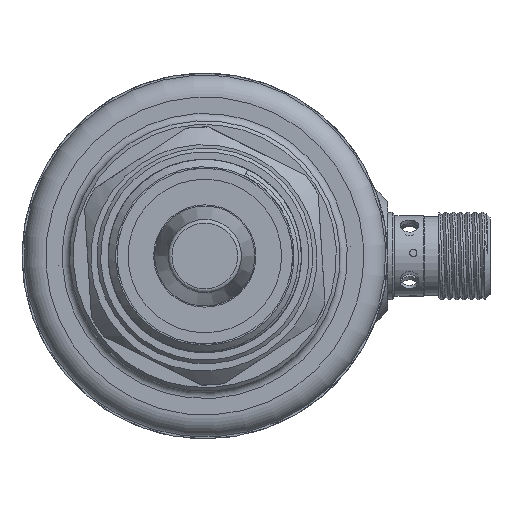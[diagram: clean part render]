
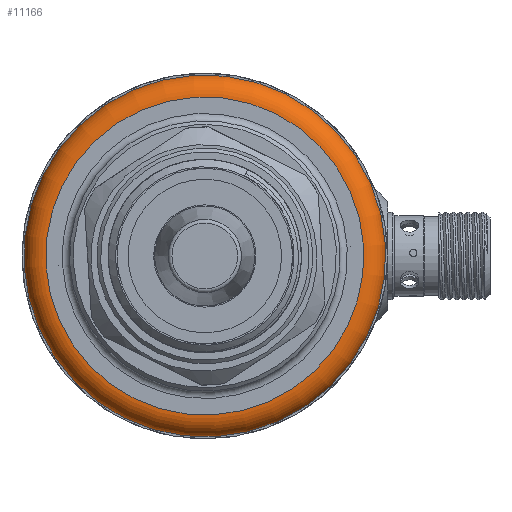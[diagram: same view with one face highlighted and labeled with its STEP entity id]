
A CAD part, front view. The second image highlights one B-rep face of the part: STEP entity #11166.
In plain terms, the highlighted toroidal (fillet/blend) face has major radius 21.75 mm and minor radius 3 mm.
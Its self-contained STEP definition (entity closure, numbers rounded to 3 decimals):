
#34 = DIRECTION ( 'NONE',  ( -1., 0., 0. ) ) ;
#717 = VERTEX_POINT ( 'NONE', #14369 ) ;
#2099 = DIRECTION ( 'NONE',  ( 1., 0., 0. ) ) ;
#2987 = DIRECTION ( 'NONE',  ( 0., 0., -1. ) ) ;
#3543 = VERTEX_POINT ( 'NONE', #3688 ) ;
#3688 = CARTESIAN_POINT ( 'NONE',  ( 41., 0., -22.025 ) ) ;
#4288 = DIRECTION ( 'NONE',  ( 0., 0., -1. ) ) ;
#6313 = FACE_OUTER_BOUND ( 'NONE', #6408, .T. ) ;
#6408 = EDGE_LOOP ( 'NONE', ( #8995 ) ) ;
#6604 = CARTESIAN_POINT ( 'NONE',  ( 44., 0., -0.275 ) ) ;
#6778 = EDGE_CURVE ( 'NONE', #3543, #3543, #8508, .T. ) ;
#6800 = AXIS2_PLACEMENT_3D ( 'NONE', #8812, #2099, #4288 ) ;
#8508 = CIRCLE ( 'NONE', #14778, 21.75 ) ;
#8643 = DIRECTION ( 'NONE',  ( 1., 0., 0. ) ) ;
#8727 = CIRCLE ( 'NONE', #6800, 24.75 ) ;
#8812 = CARTESIAN_POINT ( 'NONE',  ( 44., 0., -0.275 ) ) ;
#8995 = ORIENTED_EDGE ( 'NONE', *, *, #6778, .F. ) ;
#9215 = DIRECTION ( 'NONE',  ( 0., 0., -1. ) ) ;
#9261 = EDGE_CURVE ( 'NONE', #717, #717, #8727, .T. ) ;
#9995 = FACE_OUTER_BOUND ( 'NONE', #12362, .T. ) ;
#11166 = ADVANCED_FACE ( 'NONE', ( #9995, #6313 ), #12872, .T. ) ;
#12362 = EDGE_LOOP ( 'NONE', ( #14685 ) ) ;
#12529 = CARTESIAN_POINT ( 'NONE',  ( 41., 0., -0.275 ) ) ;
#12872 = TOROIDAL_SURFACE ( 'NONE', #13838, 21.75, 3. ) ;
#13838 = AXIS2_PLACEMENT_3D ( 'NONE', #6604, #8643, #2987 ) ;
#14369 = CARTESIAN_POINT ( 'NONE',  ( 44., 0., -25.025 ) ) ;
#14685 = ORIENTED_EDGE ( 'NONE', *, *, #9261, .F. ) ;
#14778 = AXIS2_PLACEMENT_3D ( 'NONE', #12529, #34, #9215 ) ;
